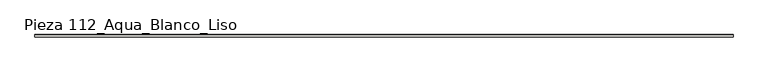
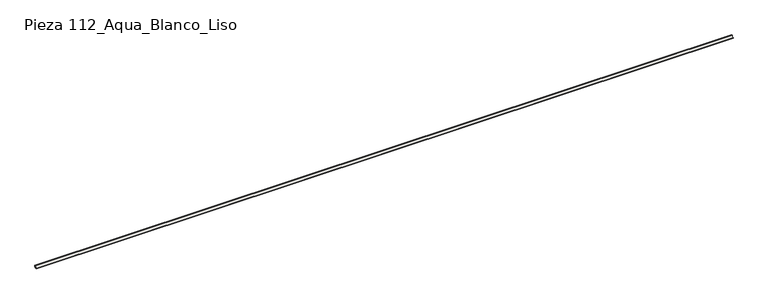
"""IFC4 building model written with IfcOpenShell, lengths in millimetres: slab geometry, ROSA GRES_112 : Pieza 112_Aqua_Blanco_Liso."""

from ifc_helpers import new_model, si_unit, point, frame, frame_2d, origin, place, context, project, spatial, polyline, circle_curve, trimmed, segment, composite_curve, outline, extrude, source, transform, mapped, element, save


def pieza_112_aqua_blanco_liso_6d121d17(model_context):
    return source(origin(), model_context, "Body", "SweptSolid", [
        extrude(outline(composite_curve([segment(polyline([(9.9734114, 8.7114978), (1.2619137, 0.0), (-30.0265886, 0.0), (-30.0265886, 9.9734114)]), True, "CONTINUOUS"), segment(trimmed(circle_curve(frame_2d((-30.0221432, 39.9955547)), 30.0221435), [point((-30.0265886, 9.9734114))], [point((0.0, 40.0))], True, "CARTESIAN"), True, "CONTINUOUS"), segment(polyline([(0.0, 40.0), (9.9734114, 40.0), (9.9734114, 8.7114978)]), True, "CONTINUOUS")], self_intersect=False)), frame((0.0, 0.0, 0.0), z_axis=(1.0, 0.0, 0.0), x_axis=(0.0, 1.0, 0.0)), (0.0, 0.0, 1.0), 12020.0),
    ])


if __name__ == "__main__":
    model = new_model("IFC4")
    model_context = context("Model", 3, world=origin())
    ifc_project = project(units=[si_unit("LENGTHUNIT", "METRE", prefix="MILLI")], contexts=[model_context])
    site = spatial("IfcSite", under=ifc_project)
    building = spatial("IfcBuilding", under=site)
    placement = place(None, origin())
    pieza_112_aqua_blanco_liso_shape = pieza_112_aqua_blanco_liso_6d121d17(model_context)
    element("IfcSlab", 1, ObjectType="ROSA GRES_112 : Pieza 112_Aqua_Blanco_Liso", at=placement, inside=building, context=model_context, shape_type="MappedRepresentation", body=[
        mapped(pieza_112_aqua_blanco_liso_shape, transform((0.0, 0.0, 0.0), x_axis=(1.0, 0.0, 0.0), y_axis=(0.0, 1.0, 0.0), z_axis=(0.0, 0.0, 1.0))),
    ])
    save(model, "model.ifc")
